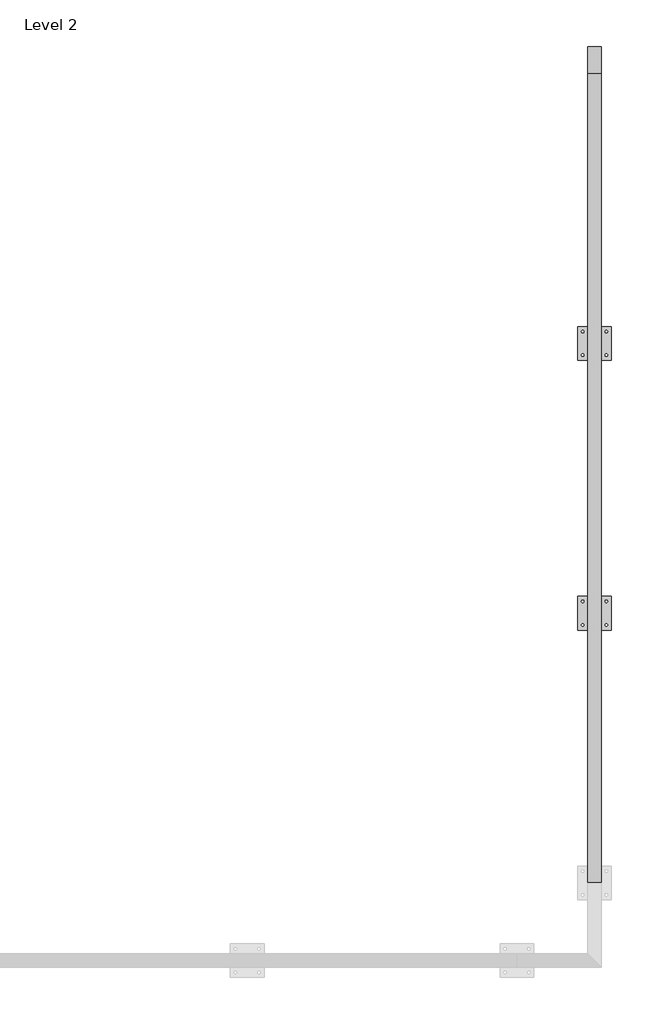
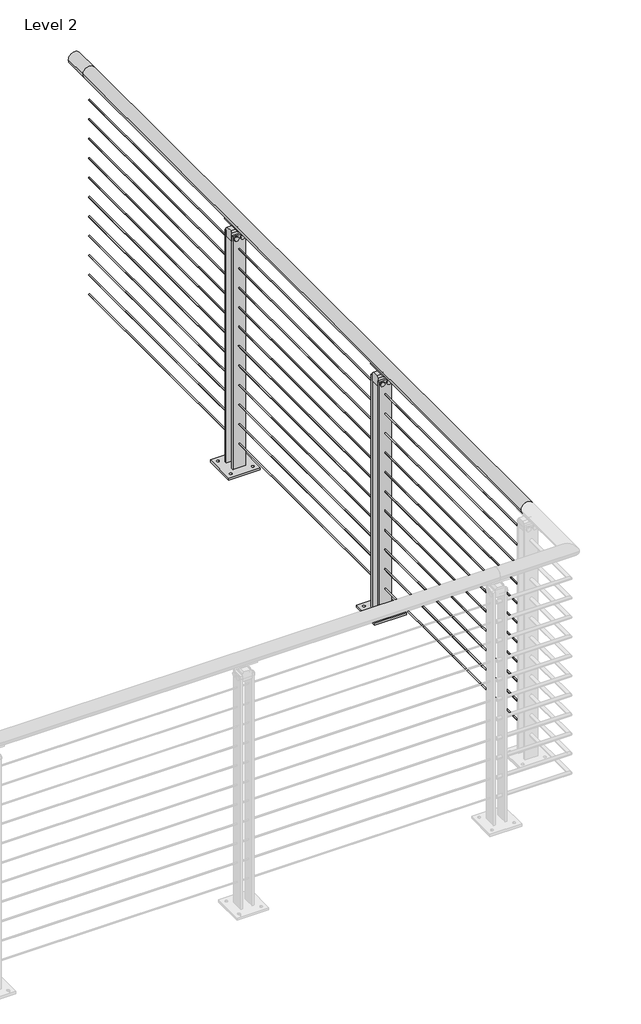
# One storey, part 23 of 31: 1 railing.
"""IFC4 building model written with IfcOpenShell, lengths in millimetres."""

from ifc_helpers import new_model, si_unit, point, frame, frame_2d, origin, place, context, project, spatial, polyline, circle_curve, trimmed, segment, composite_curve, outline, extrude, element, save
from ifc_brep_helpers import plane_surface, cylinder_surface, revolved_surface, advanced_brep

model = new_model("IFC4")

# Units and contexts
model_context = context("Model", 3, world=origin())
ifc_project = project(units=[si_unit("LENGTHUNIT", "METRE", prefix="MILLI")], contexts=[model_context])

# Site, building, storey
site = spatial("IfcSite", under=ifc_project)
building = spatial("IfcBuilding", under=site)
storey = spatial("IfcBuildingStorey", under=building, Name="Level 2", Elevation=3048.0)

# Railing
placement = place(None, origin())
element("IfcRailing", 1, ObjectType="VIVA-BLADE-Cable-Floor Mount-Straight", at=placement, inside=storey, context=model_context, shape_type="SolidModel", body=[
    advanced_brep(
    [(20840.5072927, -51812.6426165, 4102.1), (20789.7072927, -51812.6426165, 4102.1), (20840.5072927, -48764.6426165, 4102.1), (20789.7072927, -48764.6426165, 4102.1), (20840.5072927, -48663.0426165, 4102.1), (20789.7072927, -48663.0426165, 4102.1)],
    [
        (0, 1, circle_curve(frame((20815.1072927, -51812.6426165, 4102.1), z_axis=(0.0, -1.0, 0.0), x_axis=(-1.0, 0.0, 0.0)), 25.4)),
        (1, 0, circle_curve(frame((20815.1072927, -51812.6426165, 4102.1), z_axis=(0.0, -1.0, 0.0), x_axis=(-1.0, 0.0, 0.0)), 25.4)),
        (0, 2),
        (2, 3, circle_curve(frame((20815.1072927, -48764.6426165, 4102.1), z_axis=(0.0, -1.0, 0.0), x_axis=(-1.0, 0.0, 0.0)), 25.4)),
        (3, 1),
        (3, 2, circle_curve(frame((20815.1072927, -48764.6426165, 4102.1), z_axis=(0.0, -1.0, 0.0), x_axis=(-1.0, 0.0, 0.0)), 25.4)),
        (4, 5, circle_curve(frame((20815.1072927, -48663.0426165, 4102.1), z_axis=(0.0, 1.0, 0.0), x_axis=(-1.0, 0.0, 0.0)), 25.4)),
        (5, 4, circle_curve(frame((20815.1072927, -48663.0426165, 4102.1), z_axis=(0.0, 1.0, 0.0), x_axis=(-1.0, 0.0, 0.0)), 25.4)),
        (2, 4),
        (5, 3),
    ],
    [
        plane_surface(frame((20815.1072927, -51812.6426165, 4127.5), z_axis=(0.0, -1.0, 0.0), x_axis=(0.0, 0.0, 1.0))),
        cylinder_surface(frame((20815.1072927, -51812.6426165, 4102.1), z_axis=(0.0, -1.0, 0.0), x_axis=(-1.0, 0.0, 0.0)), 25.4),
        plane_surface(frame((20815.1072927, -48663.0426165, 4127.5), z_axis=(0.0, 1.0, 0.0), x_axis=(0.0, 0.0, 1.0))),
        cylinder_surface(frame((20815.1072927, -48764.6426165, 4102.1), z_axis=(0.0, -1.0, 0.0), x_axis=(-1.0, 0.0, 0.0)), 25.4),
    ],
    [
        (0, [[1, 2]]),
        (1, [[-1, 3, 4, 5]]),
        (1, [[-2, -5, 6, -3]]),
        (2, [[7, 8]]),
        (3, [[-4, 9, -8, 10]]),
        (3, [[-6, -10, -7, -9]]),
    ],
),
    extrude(outline(composite_curve([segment(trimmed(circle_curve(frame_2d((3985.4124, 20815.1072927)), 2.3876), [point((3985.4124, 20812.7196927))], [point((3985.4124, 20817.4948927))], False, "CARTESIAN"), True, "CONTINUOUS"), segment(trimmed(circle_curve(frame_2d((3985.4124, 20815.1072927)), 2.3876), [point((3985.4124, 20817.4948927))], [point((3985.4124, 20812.7196927))], False, "CARTESIAN"), True, "CONTINUOUS")], self_intersect=False)), frame((0.0, -51812.6426165, 0.0), z_axis=(0.0, 1.0, 0.0), x_axis=(0.0, 0.0, 1.0)), (0.0, 0.0, 1.0), 3048.0),
    extrude(outline(composite_curve([segment(trimmed(circle_curve(frame_2d((3902.8624, 20815.1072927)), 2.3876), [point((3902.8624, 20812.7196927))], [point((3902.8624, 20817.4948927))], False, "CARTESIAN"), True, "CONTINUOUS"), segment(trimmed(circle_curve(frame_2d((3902.8624, 20815.1072927)), 2.3876), [point((3902.8624, 20817.4948927))], [point((3902.8624, 20812.7196927))], False, "CARTESIAN"), True, "CONTINUOUS")], self_intersect=False)), frame((0.0, -51812.6426165, 0.0), z_axis=(0.0, 1.0, 0.0), x_axis=(0.0, 0.0, 1.0)), (0.0, 0.0, 1.0), 3048.0),
    extrude(outline(composite_curve([segment(trimmed(circle_curve(frame_2d((3820.3124, 20815.1072927)), 2.3876), [point((3820.3124, 20812.7196927))], [point((3820.3124, 20817.4948927))], False, "CARTESIAN"), True, "CONTINUOUS"), segment(trimmed(circle_curve(frame_2d((3820.3124, 20815.1072927)), 2.3876), [point((3820.3124, 20817.4948927))], [point((3820.3124, 20812.7196927))], False, "CARTESIAN"), True, "CONTINUOUS")], self_intersect=False)), frame((0.0, -51812.6426165, 0.0), z_axis=(0.0, 1.0, 0.0), x_axis=(0.0, 0.0, 1.0)), (0.0, 0.0, 1.0), 3048.0),
    extrude(outline(composite_curve([segment(trimmed(circle_curve(frame_2d((3737.7624, 20815.1072927)), 2.3876), [point((3737.7624, 20812.7196927))], [point((3737.7624, 20817.4948927))], False, "CARTESIAN"), True, "CONTINUOUS"), segment(trimmed(circle_curve(frame_2d((3737.7624, 20815.1072927)), 2.3876), [point((3737.7624, 20817.4948927))], [point((3737.7624, 20812.7196927))], False, "CARTESIAN"), True, "CONTINUOUS")], self_intersect=False)), frame((0.0, -51812.6426165, 0.0), z_axis=(0.0, 1.0, 0.0), x_axis=(0.0, 0.0, 1.0)), (0.0, 0.0, 1.0), 3048.0),
    extrude(outline(composite_curve([segment(trimmed(circle_curve(frame_2d((3655.2124, 20815.1072927)), 2.3876), [point((3655.2124, 20812.7196927))], [point((3655.2124, 20817.4948927))], False, "CARTESIAN"), True, "CONTINUOUS"), segment(trimmed(circle_curve(frame_2d((3655.2124, 20815.1072927)), 2.3876), [point((3655.2124, 20817.4948927))], [point((3655.2124, 20812.7196927))], False, "CARTESIAN"), True, "CONTINUOUS")], self_intersect=False)), frame((0.0, -51812.6426165, 0.0), z_axis=(0.0, 1.0, 0.0), x_axis=(0.0, 0.0, 1.0)), (0.0, 0.0, 1.0), 3048.0),
    extrude(outline(composite_curve([segment(trimmed(circle_curve(frame_2d((3572.6624, 20815.1072927)), 2.3876), [point((3572.6624, 20812.7196927))], [point((3572.6624, 20817.4948927))], False, "CARTESIAN"), True, "CONTINUOUS"), segment(trimmed(circle_curve(frame_2d((3572.6624, 20815.1072927)), 2.3876), [point((3572.6624, 20817.4948927))], [point((3572.6624, 20812.7196927))], False, "CARTESIAN"), True, "CONTINUOUS")], self_intersect=False)), frame((0.0, -51812.6426165, 0.0), z_axis=(0.0, 1.0, 0.0), x_axis=(0.0, 0.0, 1.0)), (0.0, 0.0, 1.0), 3048.0),
    extrude(outline(composite_curve([segment(trimmed(circle_curve(frame_2d((3490.1124, 20815.1072927)), 2.3876), [point((3490.1124, 20812.7196927))], [point((3490.1124, 20817.4948927))], False, "CARTESIAN"), True, "CONTINUOUS"), segment(trimmed(circle_curve(frame_2d((3490.1124, 20815.1072927)), 2.3876), [point((3490.1124, 20817.4948927))], [point((3490.1124, 20812.7196927))], False, "CARTESIAN"), True, "CONTINUOUS")], self_intersect=False)), frame((0.0, -51812.6426165, 0.0), z_axis=(0.0, 1.0, 0.0), x_axis=(0.0, 0.0, 1.0)), (0.0, 0.0, 1.0), 3048.0),
    extrude(outline(composite_curve([segment(trimmed(circle_curve(frame_2d((3407.5624, 20815.1072927)), 2.3876), [point((3407.5624, 20812.7196927))], [point((3407.5624, 20817.4948927))], False, "CARTESIAN"), True, "CONTINUOUS"), segment(trimmed(circle_curve(frame_2d((3407.5624, 20815.1072927)), 2.3876), [point((3407.5624, 20817.4948927))], [point((3407.5624, 20812.7196927))], False, "CARTESIAN"), True, "CONTINUOUS")], self_intersect=False)), frame((0.0, -51812.6426165, 0.0), z_axis=(0.0, 1.0, 0.0), x_axis=(0.0, 0.0, 1.0)), (0.0, 0.0, 1.0), 3048.0),
    extrude(outline(composite_curve([segment(trimmed(circle_curve(frame_2d((3325.0124, 20815.1072927)), 2.3876), [point((3325.0124, 20812.7196927))], [point((3325.0124, 20817.4948927))], False, "CARTESIAN"), True, "CONTINUOUS"), segment(trimmed(circle_curve(frame_2d((3325.0124, 20815.1072927)), 2.3876), [point((3325.0124, 20817.4948927))], [point((3325.0124, 20812.7196927))], False, "CARTESIAN"), True, "CONTINUOUS")], self_intersect=False)), frame((0.0, -51812.6426165, 0.0), z_axis=(0.0, 1.0, 0.0), x_axis=(0.0, 0.0, 1.0)), (0.0, 0.0, 1.0), 3048.0),
    extrude(outline(composite_curve([segment(trimmed(circle_curve(frame_2d((3242.4624, 20815.1072927)), 2.3876), [point((3242.4624, 20812.7196927))], [point((3242.4624, 20817.4948927))], False, "CARTESIAN"), True, "CONTINUOUS"), segment(trimmed(circle_curve(frame_2d((3242.4624, 20815.1072927)), 2.3876), [point((3242.4624, 20817.4948927))], [point((3242.4624, 20812.7196927))], False, "CARTESIAN"), True, "CONTINUOUS")], self_intersect=False)), frame((0.0, -51812.6426165, 0.0), z_axis=(0.0, 1.0, 0.0), x_axis=(0.0, 0.0, 1.0)), (0.0, 0.0, 1.0), 3048.0),
    extrude(outline(composite_curve([segment(trimmed(circle_curve(frame_2d((3159.9124, 20815.1072927)), 2.3876), [point((3159.9124, 20812.7196927))], [point((3159.9124, 20817.4948927))], False, "CARTESIAN"), True, "CONTINUOUS"), segment(trimmed(circle_curve(frame_2d((3159.9124, 20815.1072927)), 2.3876), [point((3159.9124, 20817.4948927))], [point((3159.9124, 20812.7196927))], False, "CARTESIAN"), True, "CONTINUOUS")], self_intersect=False)), frame((0.0, -51812.6426165, 0.0), z_axis=(0.0, 1.0, 0.0), x_axis=(0.0, 0.0, 1.0)), (0.0, 0.0, 1.0), 3048.0),
    advanced_brep(
    [(20802.3471691, -49735.4052165, 4080.0967655), (20827.2192336, -49735.4052165, 4079.9535285), (20830.0281639, -49735.4052165, 4075.1267745), (20798.5112716, -49735.4052165, 4075.707533), (20802.3471691, -49825.8800165, 4080.0967655), (20798.5112716, -49825.8800165, 4075.707533), (20830.1419573, -49825.8800165, 4075.1893964), (20827.3062057, -49825.8800165, 4080.0018447)],
    [
        (0, 1, circle_curve(frame((20814.9109719, -49735.4052165, 4102.2115898), z_axis=(0.0, -1.0, 0.0), x_axis=(-1.0, 0.0, 0.0)), 25.4345159)),
        (1, 2, circle_curve(frame((20828.5508588, -49735.4052165, 4077.4993599), z_axis=(0.0, 1.0, 0.0), x_axis=(-1.0, 0.0, 0.0)), 2.7949225)),
        (2, 3, circle_curve(frame((20814.7775089, -49735.4052165, 4102.9742164), z_axis=(0.0, 1.0, 0.0), x_axis=(-1.0, 0.0, 0.0)), 31.75)),
        (3, 0, circle_curve(frame((20800.7996114, -49735.4052165, 4077.5784521), z_axis=(0.0, 1.0, 0.0), x_axis=(-1.0, 0.0, 0.0)), 2.9558141)),
        (4, 5, circle_curve(frame((20800.7996114, -49825.8800165, 4077.5784521), z_axis=(0.0, -1.0, 0.0), x_axis=(-1.0, 0.0, 0.0)), 2.9558141)),
        (5, 6, circle_curve(frame((20814.7775089, -49825.8800165, 4102.9742164), z_axis=(0.0, -1.0, 0.0), x_axis=(-1.0, 0.0, 0.0)), 31.75)),
        (6, 7, circle_curve(frame((20828.5508588, -49825.8800165, 4077.4993599), z_axis=(0.0, -1.0, 0.0), x_axis=(-1.0, 0.0, 0.0)), 2.7949225)),
        (7, 4, circle_curve(frame((20814.9109719, -49825.8800165, 4102.2115898), z_axis=(0.0, 1.0, 0.0), x_axis=(-1.0, 0.0, 0.0)), 25.4345159)),
        (0, 4),
        (7, 1),
        (6, 2),
        (5, 3),
    ],
    [
        plane_surface(frame((20789.4764561, -49735.4052165, 4102.2115898), z_axis=(0.0, 1.0, 0.0), x_axis=(0.0, 0.0, -1.0))),
        plane_surface(frame((20789.4764561, -49825.8800165, 4102.2115898), z_axis=(0.0, -1.0, 0.0), x_axis=(0.0, 0.0, 1.0))),
        revolved_surface(polyline([(20789.476456, -49825.8800165, 4102.2115898), (20789.476456, -49735.4052165, 4102.2115898)]), (20814.9109719, -49825.8800165, 4102.2115898), (0.0, -1.0, 0.0)),
        cylinder_surface(frame((20828.5508588, -49825.8800165, 4077.4993599), z_axis=(0.0, 1.0, 0.0), x_axis=(-1.0, 0.0, 0.0)), 2.7949225),
        cylinder_surface(frame((20814.7775089, -49825.8800165, 4102.9742164), z_axis=(0.0, 1.0, 0.0), x_axis=(-1.0, 0.0, 0.0)), 31.75),
        cylinder_surface(frame((20800.7996114, -49825.8800165, 4077.5784521), z_axis=(0.0, 1.0, 0.0), x_axis=(-1.0, 0.0, 0.0)), 2.9558141),
    ],
    [
        (0, [[1, 2, 3, 4]]),
        (1, [[5, 6, 7, 8]]),
        (2, [[-1, 9, -8, 10]]),
        (3, [[-2, -10, -7, 11]]),
        (4, [[-3, -11, -6, 12]]),
        (5, [[-4, -12, -5, -9]]),
    ],
),
    extrude(outline(composite_curve([segment(polyline([(-49767.9426165, 4062.4125), (-49793.3426165, 4062.4125)]), True, "CONTINUOUS"), segment(trimmed(circle_curve(frame_2d((-49807.7105314, 4062.4125)), 14.3679149), [point((-49793.3426165, 4062.4125))], [point((-49807.7105314, 4076.7804149))], True, "CARTESIAN"), True, "CONTINUOUS"), segment(polyline([(-49807.7105314, 4076.7804149), (-49753.5747017, 4076.7804149)]), True, "CONTINUOUS"), segment(trimmed(circle_curve(frame_2d((-49753.5747017, 4062.4125)), 14.3679149), [point((-49753.5747017, 4076.7804149))], [point((-49767.9426165, 4062.4125))], True, "CARTESIAN"), True, "CONTINUOUS")], self_intersect=False)), frame((20812.5672927, 0.0, 0.0), z_axis=(1.0, 0.0, 0.0), x_axis=(0.0, 1.0, 0.0)), (0.0, 0.0, 1.0), 5.08),
    extrude(outline(polyline([(20878.6060986, -49717.1545534), (20878.6060986, -49844.1545534), (20751.6084868, -49844.1545534), (20751.6084868, -49717.1545534), (20878.6060986, -49717.1545534)]), holes=[composite_curve([segment(trimmed(circle_curve(frame_2d((20859.5560986, -49825.1045534)), 4.7625), [point((20864.3185986, -49825.1045534))], [point((20854.7935986, -49825.1045534))], True, "CARTESIAN"), True, "CONTINUOUS"), segment(trimmed(circle_curve(frame_2d((20859.5560986, -49825.1045534)), 4.7625), [point((20854.7935986, -49825.1045534))], [point((20864.3185986, -49825.1045534))], True, "CARTESIAN"), True, "CONTINUOUS")], self_intersect=False), composite_curve([segment(trimmed(circle_curve(frame_2d((20770.6584868, -49825.1045534)), 4.7625), [point((20775.4209868, -49825.1045534))], [point((20765.8959868, -49825.1045534))], True, "CARTESIAN"), True, "CONTINUOUS"), segment(trimmed(circle_curve(frame_2d((20770.6584868, -49825.1045534)), 4.7625), [point((20765.8959868, -49825.1045534))], [point((20775.4209868, -49825.1045534))], True, "CARTESIAN"), True, "CONTINUOUS")], self_intersect=False), composite_curve([segment(trimmed(circle_curve(frame_2d((20770.6584868, -49736.2045534)), 4.7625), [point((20775.4209868, -49736.2045534))], [point((20765.8959868, -49736.2045534))], True, "CARTESIAN"), True, "CONTINUOUS"), segment(trimmed(circle_curve(frame_2d((20770.6584868, -49736.2045534)), 4.7625), [point((20765.8959868, -49736.2045534))], [point((20775.4209868, -49736.2045534))], True, "CARTESIAN"), True, "CONTINUOUS")], self_intersect=False), composite_curve([segment(trimmed(circle_curve(frame_2d((20859.5560986, -49736.2045534)), 4.7625), [point((20864.3185986, -49736.2045534))], [point((20854.7935986, -49736.2045534))], True, "CARTESIAN"), True, "CONTINUOUS"), segment(trimmed(circle_curve(frame_2d((20859.5560986, -49736.2045534)), 4.7625), [point((20854.7935986, -49736.2045534))], [point((20864.3185986, -49736.2045534))], True, "CARTESIAN"), True, "CONTINUOUS")], self_intersect=False)]), frame((0.0, 0.0, 3048.0), z_axis=(0.0, 0.0, 1.0), x_axis=(1.0, 0.0, 0.0)), (0.0, 0.0, 1.0), 9.525),
    extrude(outline(polyline([(20789.707496, -49807.7174522), (20789.707496, -49799.6926165), (20840.5098206, -49799.6926165), (20840.5098206, -49807.7174522), (20789.707496, -49807.7174522)])), frame((0.0, 0.0, 3048.0), z_axis=(0.0, 0.0, 1.0), x_axis=(1.0, 0.0, 0.0)), (0.0, 0.0, 1.0), 996.95),
    extrude(outline(composite_curve([segment(trimmed(circle_curve(frame_2d((4034.0416929, 20827.8097696)), 8.89), [point((4034.0416929, 20836.6997696))], [point((4034.0416929, 20818.9197696))], False, "CARTESIAN"), True, "CONTINUOUS"), segment(trimmed(circle_curve(frame_2d((4034.0416929, 20827.8097696)), 8.89), [point((4034.0416929, 20818.9197696))], [point((4034.0416929, 20836.6997696))], False, "CARTESIAN"), True, "CONTINUOUS")], self_intersect=False)), frame((0.0, -49812.3926165, 0.0), z_axis=(0.0, 1.0, 0.0), x_axis=(0.0, 0.0, 1.0)), (0.0, 0.0, 1.0), 63.4880631),
    extrude(outline(composite_curve([segment(trimmed(circle_curve(frame_2d((4034.0416929, 20802.4098716)), 8.89), [point((4034.0416929, 20811.2998716))], [point((4034.0416929, 20793.5198716))], False, "CARTESIAN"), True, "CONTINUOUS"), segment(trimmed(circle_curve(frame_2d((4034.0416929, 20802.4098716)), 8.89), [point((4034.0416929, 20793.5198716))], [point((4034.0416929, 20811.2998716))], False, "CARTESIAN"), True, "CONTINUOUS")], self_intersect=False)), frame((0.0, -49812.3926165, 0.0), z_axis=(0.0, 1.0, 0.0), x_axis=(0.0, 0.0, 1.0)), (0.0, 0.0, 1.0), 63.4880631),
    extrude(outline(polyline([(-49799.6926165, 4022.7123), (-49799.6926165, 4056.0625), (-49793.3426165, 4062.4125), (-49767.9426165, 4062.4125), (-49761.5926165, 4056.0625), (-49761.5926165, 4022.7123), (-49799.6926165, 4022.7123)])), frame((20789.7072927, 0.0, 0.0), z_axis=(1.0, 0.0, 0.0), x_axis=(0.0, 1.0, 0.0)), (0.0, 0.0, 1.0), 50.8025279),
    extrude(outline(polyline([(20789.707496, -49761.5926546), (20789.707496, -49753.5916546), (20840.5098206, -49753.5916546), (20840.5098206, -49761.5926546), (20789.707496, -49761.5926546)])), frame((0.0, 0.0, 3048.0), z_axis=(0.0, 0.0, 1.0), x_axis=(1.0, 0.0, 0.0)), (0.0, 0.0, 1.0), 996.95),
    advanced_brep(
    [(20802.3471691, -50751.4052165, 4080.0967655), (20827.2192336, -50751.4052165, 4079.9535285), (20830.0281639, -50751.4052165, 4075.1267745), (20798.5112716, -50751.4052165, 4075.707533), (20802.3471691, -50841.8800165, 4080.0967655), (20798.5112716, -50841.8800165, 4075.707533), (20830.1419573, -50841.8800165, 4075.1893964), (20827.3062057, -50841.8800165, 4080.0018447)],
    [
        (0, 1, circle_curve(frame((20814.9109719, -50751.4052165, 4102.2115898), z_axis=(0.0, -1.0, 0.0), x_axis=(-1.0, 0.0, 0.0)), 25.4345159)),
        (1, 2, circle_curve(frame((20828.5508588, -50751.4052165, 4077.4993599), z_axis=(0.0, 1.0, 0.0), x_axis=(-1.0, 0.0, 0.0)), 2.7949225)),
        (2, 3, circle_curve(frame((20814.7775089, -50751.4052165, 4102.9742164), z_axis=(0.0, 1.0, 0.0), x_axis=(-1.0, 0.0, 0.0)), 31.75)),
        (3, 0, circle_curve(frame((20800.7996114, -50751.4052165, 4077.5784521), z_axis=(0.0, 1.0, 0.0), x_axis=(-1.0, 0.0, 0.0)), 2.9558141)),
        (4, 5, circle_curve(frame((20800.7996114, -50841.8800165, 4077.5784521), z_axis=(0.0, -1.0, 0.0), x_axis=(-1.0, 0.0, 0.0)), 2.9558141)),
        (5, 6, circle_curve(frame((20814.7775089, -50841.8800165, 4102.9742164), z_axis=(0.0, -1.0, 0.0), x_axis=(-1.0, 0.0, 0.0)), 31.75)),
        (6, 7, circle_curve(frame((20828.5508588, -50841.8800165, 4077.4993599), z_axis=(0.0, -1.0, 0.0), x_axis=(-1.0, 0.0, 0.0)), 2.7949225)),
        (7, 4, circle_curve(frame((20814.9109719, -50841.8800165, 4102.2115898), z_axis=(0.0, 1.0, 0.0), x_axis=(-1.0, 0.0, 0.0)), 25.4345159)),
        (0, 4),
        (7, 1),
        (6, 2),
        (5, 3),
    ],
    [
        plane_surface(frame((20789.4764561, -50751.4052165, 4102.2115898), z_axis=(0.0, 1.0, 0.0), x_axis=(0.0, 0.0, -1.0))),
        plane_surface(frame((20789.4764561, -50841.8800165, 4102.2115898), z_axis=(0.0, -1.0, 0.0), x_axis=(0.0, 0.0, 1.0))),
        revolved_surface(polyline([(20789.476456, -50841.8800165, 4102.2115898), (20789.476456, -50751.4052165, 4102.2115898)]), (20814.9109719, -50841.8800165, 4102.2115898), (0.0, -1.0, 0.0)),
        cylinder_surface(frame((20828.5508588, -50841.8800165, 4077.4993599), z_axis=(0.0, 1.0, 0.0), x_axis=(-1.0, 0.0, 0.0)), 2.7949225),
        cylinder_surface(frame((20814.7775089, -50841.8800165, 4102.9742164), z_axis=(0.0, 1.0, 0.0), x_axis=(-1.0, 0.0, 0.0)), 31.75),
        cylinder_surface(frame((20800.7996114, -50841.8800165, 4077.5784521), z_axis=(0.0, 1.0, 0.0), x_axis=(-1.0, 0.0, 0.0)), 2.9558141),
    ],
    [
        (0, [[1, 2, 3, 4]]),
        (1, [[5, 6, 7, 8]]),
        (2, [[-1, 9, -8, 10]]),
        (3, [[-2, -10, -7, 11]]),
        (4, [[-3, -11, -6, 12]]),
        (5, [[-4, -12, -5, -9]]),
    ],
),
    extrude(outline(composite_curve([segment(polyline([(-50783.9426165, 4062.4125), (-50809.3426165, 4062.4125)]), True, "CONTINUOUS"), segment(trimmed(circle_curve(frame_2d((-50823.7105314, 4062.4125)), 14.3679149), [point((-50809.3426165, 4062.4125))], [point((-50823.7105314, 4076.7804149))], True, "CARTESIAN"), True, "CONTINUOUS"), segment(polyline([(-50823.7105314, 4076.7804149), (-50769.5747017, 4076.7804149)]), True, "CONTINUOUS"), segment(trimmed(circle_curve(frame_2d((-50769.5747017, 4062.4125)), 14.3679149), [point((-50769.5747017, 4076.7804149))], [point((-50783.9426165, 4062.4125))], True, "CARTESIAN"), True, "CONTINUOUS")], self_intersect=False)), frame((20812.5672927, 0.0, 0.0), z_axis=(1.0, 0.0, 0.0), x_axis=(0.0, 1.0, 0.0)), (0.0, 0.0, 1.0), 5.08),
    extrude(outline(polyline([(20878.6060986, -50733.1545534), (20878.6060986, -50860.1545534), (20751.6084868, -50860.1545534), (20751.6084868, -50733.1545534), (20878.6060986, -50733.1545534)]), holes=[composite_curve([segment(trimmed(circle_curve(frame_2d((20859.5560986, -50841.1045534)), 4.7625), [point((20864.3185986, -50841.1045534))], [point((20854.7935986, -50841.1045534))], True, "CARTESIAN"), True, "CONTINUOUS"), segment(trimmed(circle_curve(frame_2d((20859.5560986, -50841.1045534)), 4.7625), [point((20854.7935986, -50841.1045534))], [point((20864.3185986, -50841.1045534))], True, "CARTESIAN"), True, "CONTINUOUS")], self_intersect=False), composite_curve([segment(trimmed(circle_curve(frame_2d((20770.6584868, -50841.1045534)), 4.7625), [point((20775.4209868, -50841.1045534))], [point((20765.8959868, -50841.1045534))], True, "CARTESIAN"), True, "CONTINUOUS"), segment(trimmed(circle_curve(frame_2d((20770.6584868, -50841.1045534)), 4.7625), [point((20765.8959868, -50841.1045534))], [point((20775.4209868, -50841.1045534))], True, "CARTESIAN"), True, "CONTINUOUS")], self_intersect=False), composite_curve([segment(trimmed(circle_curve(frame_2d((20770.6584868, -50752.2045534)), 4.7625), [point((20775.4209868, -50752.2045534))], [point((20765.8959868, -50752.2045534))], True, "CARTESIAN"), True, "CONTINUOUS"), segment(trimmed(circle_curve(frame_2d((20770.6584868, -50752.2045534)), 4.7625), [point((20765.8959868, -50752.2045534))], [point((20775.4209868, -50752.2045534))], True, "CARTESIAN"), True, "CONTINUOUS")], self_intersect=False), composite_curve([segment(trimmed(circle_curve(frame_2d((20859.5560986, -50752.2045534)), 4.7625), [point((20864.3185986, -50752.2045534))], [point((20854.7935986, -50752.2045534))], True, "CARTESIAN"), True, "CONTINUOUS"), segment(trimmed(circle_curve(frame_2d((20859.5560986, -50752.2045534)), 4.7625), [point((20854.7935986, -50752.2045534))], [point((20864.3185986, -50752.2045534))], True, "CARTESIAN"), True, "CONTINUOUS")], self_intersect=False)]), frame((0.0, 0.0, 3048.0), z_axis=(0.0, 0.0, 1.0), x_axis=(1.0, 0.0, 0.0)), (0.0, 0.0, 1.0), 9.525),
    extrude(outline(polyline([(20789.707496, -50823.7174522), (20789.707496, -50815.6926165), (20840.5098206, -50815.6926165), (20840.5098206, -50823.7174522), (20789.707496, -50823.7174522)])), frame((0.0, 0.0, 3048.0), z_axis=(0.0, 0.0, 1.0), x_axis=(1.0, 0.0, 0.0)), (0.0, 0.0, 1.0), 996.95),
    extrude(outline(composite_curve([segment(trimmed(circle_curve(frame_2d((4034.0416929, 20827.8097696)), 8.89), [point((4034.0416929, 20836.6997696))], [point((4034.0416929, 20818.9197696))], False, "CARTESIAN"), True, "CONTINUOUS"), segment(trimmed(circle_curve(frame_2d((4034.0416929, 20827.8097696)), 8.89), [point((4034.0416929, 20818.9197696))], [point((4034.0416929, 20836.6997696))], False, "CARTESIAN"), True, "CONTINUOUS")], self_intersect=False)), frame((0.0, -50828.3926165, 0.0), z_axis=(0.0, 1.0, 0.0), x_axis=(0.0, 0.0, 1.0)), (0.0, 0.0, 1.0), 63.4880631),
    extrude(outline(composite_curve([segment(trimmed(circle_curve(frame_2d((4034.0416929, 20802.4098716)), 8.89), [point((4034.0416929, 20811.2998716))], [point((4034.0416929, 20793.5198716))], False, "CARTESIAN"), True, "CONTINUOUS"), segment(trimmed(circle_curve(frame_2d((4034.0416929, 20802.4098716)), 8.89), [point((4034.0416929, 20793.5198716))], [point((4034.0416929, 20811.2998716))], False, "CARTESIAN"), True, "CONTINUOUS")], self_intersect=False)), frame((0.0, -50828.3926165, 0.0), z_axis=(0.0, 1.0, 0.0), x_axis=(0.0, 0.0, 1.0)), (0.0, 0.0, 1.0), 63.4880631),
    extrude(outline(polyline([(-50815.6926165, 4022.7123), (-50815.6926165, 4056.0625), (-50809.3426165, 4062.4125), (-50783.9426165, 4062.4125), (-50777.5926165, 4056.0625), (-50777.5926165, 4022.7123), (-50815.6926165, 4022.7123)])), frame((20789.7072927, 0.0, 0.0), z_axis=(1.0, 0.0, 0.0), x_axis=(0.0, 1.0, 0.0)), (0.0, 0.0, 1.0), 50.8025279),
    extrude(outline(polyline([(20789.707496, -50777.5926546), (20789.707496, -50769.5916546), (20840.5098206, -50769.5916546), (20840.5098206, -50777.5926546), (20789.707496, -50777.5926546)])), frame((0.0, 0.0, 3048.0), z_axis=(0.0, 0.0, 1.0), x_axis=(1.0, 0.0, 0.0)), (0.0, 0.0, 1.0), 996.95),
])

save(model, "model.ifc")
